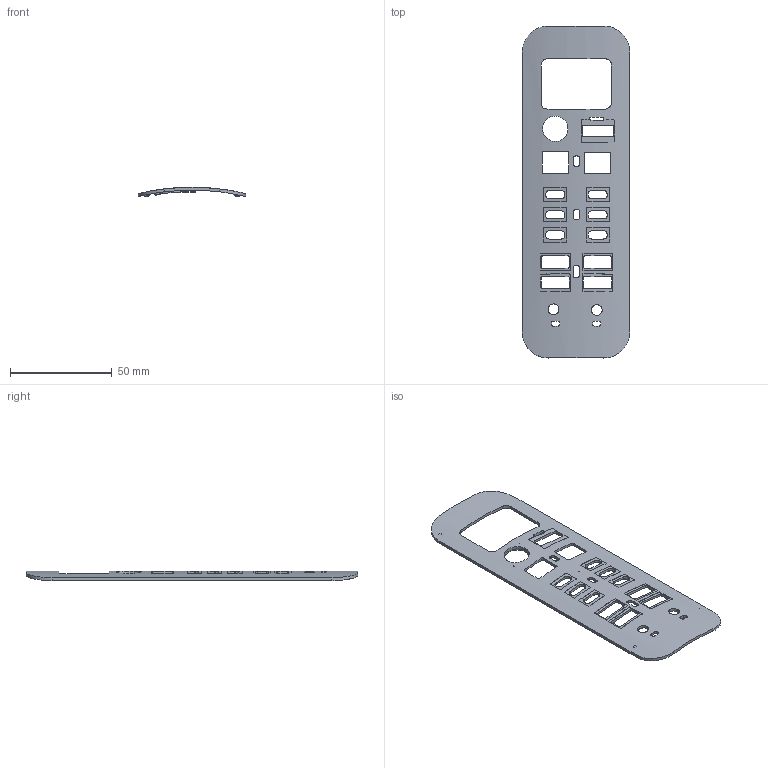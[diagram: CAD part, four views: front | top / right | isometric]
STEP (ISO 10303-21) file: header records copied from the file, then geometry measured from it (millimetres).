
FILE_DESCRIPTION(('Open CASCADE Model'),'2;1');
FILE_NAME('Open CASCADE Shape Model','2026-10-04T15:56:43',('Author'),( 'Open CASCADE'),'Open CASCADE STEP processor 7.9','Open CASCADE 7.9' ,'Unknown');
FILE_SCHEMA(('AUTOMOTIVE_DESIGN { 1 0 10303 214 1 1 1 1 }'));
Length unit declared in the file: millimetre
Products named in the file (1): Open CASCADE STEP translator 7.9 1
Bounding box: 52.7 x 163.1 x 4.7 mm (x, y, z)
Volume: 9157.8 mm3; surface area: 14807.9 mm2
Topology: 1 solids, 1 shells, 310 faces, 839 edges, 555 vertices
Faces by surface type: cylinder 156, plane 140, cone 14
Full cylindrical faces by diameter (mm): 1.1 x2, 1.3 x5, 2.6 x1, 2.8 x4, 5.3 x2, 12.4 x2
Entity records: 30455 total; most frequent: CARTESIAN_POINT 15095, DIRECTION 2389, ORIENTED_EDGE 1678, PCURVE 1678, DEFINITIONAL_REPRESENTATION 1678, LINE 1195, VECTOR 1195, B_SPLINE_CURVE_WITH_KNOTS 901
